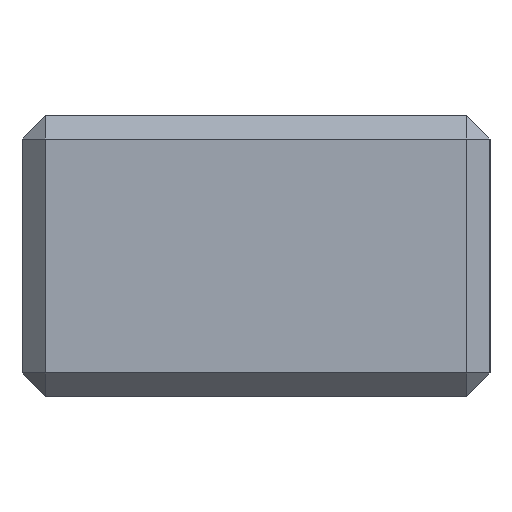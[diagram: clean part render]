
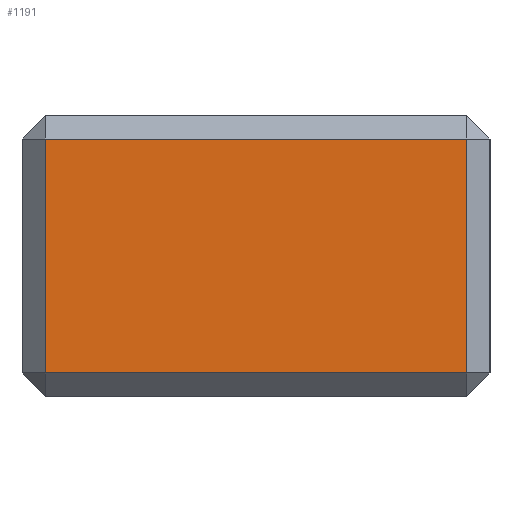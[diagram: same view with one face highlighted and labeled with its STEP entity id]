
A CAD part, left-side view. The second image highlights one B-rep face of the part: STEP entity #1191.
In plain terms, the highlighted planar face has unit normal (-1, 0, 0).
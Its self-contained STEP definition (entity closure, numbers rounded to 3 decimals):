
#83 = LINE ( 'NONE', #337, #624 ) ;
#224 = VERTEX_POINT ( 'NONE', #1178 ) ;
#254 = VERTEX_POINT ( 'NONE', #1093 ) ;
#257 = ORIENTED_EDGE ( 'NONE', *, *, #551, .T. ) ;
#301 = DIRECTION ( 'NONE',  ( 1., 0., 0. ) ) ;
#316 = DIRECTION ( 'NONE',  ( 0., 0., 1. ) ) ;
#317 = CARTESIAN_POINT ( 'NONE',  ( -50., 9., 11. ) ) ;
#337 = CARTESIAN_POINT ( 'NONE',  ( -50., -9., 12. ) ) ;
#338 = VECTOR ( 'NONE', #1251, 1000. ) ;
#382 = ORIENTED_EDGE ( 'NONE', *, *, #488, .T. ) ;
#390 = EDGE_LOOP ( 'NONE', ( #257, #932, #1238, #382 ) ) ;
#446 = CARTESIAN_POINT ( 'NONE',  ( -50., -10., 12. ) ) ;
#488 = EDGE_CURVE ( 'NONE', #254, #1052, #949, .T. ) ;
#501 = PLANE ( 'NONE',  #692 ) ;
#512 = DIRECTION ( 'NONE',  ( 0., 0., -1. ) ) ;
#551 = EDGE_CURVE ( 'NONE', #1052, #224, #912, .T. ) ;
#568 = CARTESIAN_POINT ( 'NONE',  ( -50., -9., 1. ) ) ;
#588 = DIRECTION ( 'NONE',  ( 0., -1., 0. ) ) ;
#592 = CARTESIAN_POINT ( 'NONE',  ( -50., -10., 1. ) ) ;
#624 = VECTOR ( 'NONE', #316, 1000. ) ;
#651 = VECTOR ( 'NONE', #698, 1000. ) ;
#692 = AXIS2_PLACEMENT_3D ( 'NONE', #446, #301, #512 ) ;
#698 = DIRECTION ( 'NONE',  ( 0., 1., 0. ) ) ;
#745 = VERTEX_POINT ( 'NONE', #568 ) ;
#878 = EDGE_CURVE ( 'NONE', #224, #745, #1300, .T. ) ;
#912 = LINE ( 'NONE', #1261, #338 ) ;
#932 = ORIENTED_EDGE ( 'NONE', *, *, #878, .T. ) ;
#949 = LINE ( 'NONE', #1094, #651 ) ;
#974 = FACE_OUTER_BOUND ( 'NONE', #390, .T. ) ;
#1047 = VECTOR ( 'NONE', #588, 1000. ) ;
#1052 = VERTEX_POINT ( 'NONE', #317 ) ;
#1093 = CARTESIAN_POINT ( 'NONE',  ( -50., -9., 11. ) ) ;
#1094 = CARTESIAN_POINT ( 'NONE',  ( -50., 10., 11. ) ) ;
#1178 = CARTESIAN_POINT ( 'NONE',  ( -50., 9., 1. ) ) ;
#1191 = ADVANCED_FACE ( 'NONE', ( #974 ), #501, .F. ) ;
#1238 = ORIENTED_EDGE ( 'NONE', *, *, #1385, .T. ) ;
#1251 = DIRECTION ( 'NONE',  ( 0., 0., -1. ) ) ;
#1261 = CARTESIAN_POINT ( 'NONE',  ( -50., 9., 12. ) ) ;
#1300 = LINE ( 'NONE', #592, #1047 ) ;
#1385 = EDGE_CURVE ( 'NONE', #745, #254, #83, .T. ) ;
